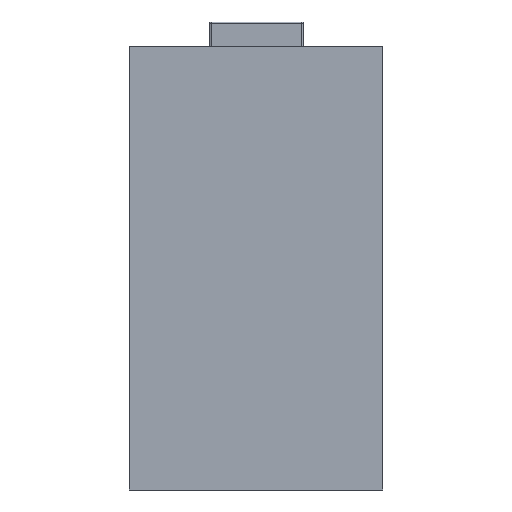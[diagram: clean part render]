
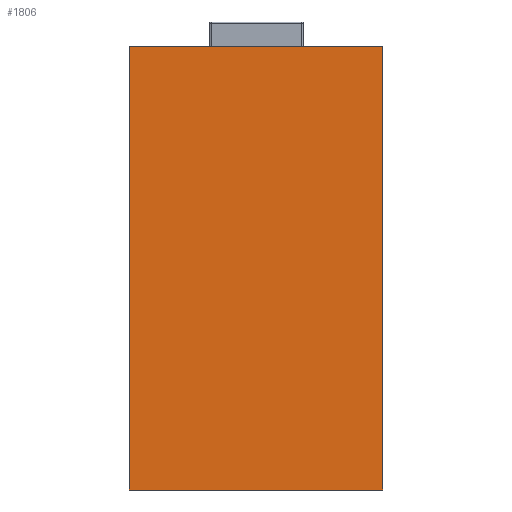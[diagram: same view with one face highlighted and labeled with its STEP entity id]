
A CAD part, front view. The second image highlights one B-rep face of the part: STEP entity #1806.
In plain terms, the highlighted planar face has unit normal (0, -1, 0).
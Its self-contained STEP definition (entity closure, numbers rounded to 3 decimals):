
#178 = CARTESIAN_POINT ( 'NONE',  ( -60., 68., -58.25 ) ) ;
#210 = LINE ( 'NONE', #2301, #4046 ) ;
#517 = ORIENTED_EDGE ( 'NONE', *, *, #2644, .F. ) ;
#682 = ORIENTED_EDGE ( 'NONE', *, *, #2392, .F. ) ;
#711 = VECTOR ( 'NONE', #770, 1000. ) ;
#720 = CARTESIAN_POINT ( 'NONE',  ( 60., 68., 151.75 ) ) ;
#770 = DIRECTION ( 'NONE',  ( 1., 0., 0. ) ) ;
#871 = VERTEX_POINT ( 'NONE', #1727 ) ;
#1039 = EDGE_CURVE ( 'NONE', #1273, #3480, #3290, .T. ) ;
#1063 = CARTESIAN_POINT ( 'NONE',  ( -15.201, 68., 135.837 ) ) ;
#1273 = VERTEX_POINT ( 'NONE', #3998 ) ;
#1315 = ORIENTED_EDGE ( 'NONE', *, *, #1039, .F. ) ;
#1417 = DIRECTION ( 'NONE',  ( 1., 0., 0. ) ) ;
#1609 = LINE ( 'NONE', #178, #1938 ) ;
#1727 = CARTESIAN_POINT ( 'NONE',  ( -60., 68., -58.25 ) ) ;
#1806 = ADVANCED_FACE ( 'NONE', ( #3973 ), #3255, .F. ) ;
#1938 = VECTOR ( 'NONE', #2290, 1000. ) ;
#2278 = VECTOR ( 'NONE', #4438, 1000. ) ;
#2290 = DIRECTION ( 'NONE',  ( -1., 0., 0. ) ) ;
#2301 = CARTESIAN_POINT ( 'NONE',  ( 60., 68., -53.25 ) ) ;
#2302 = CARTESIAN_POINT ( 'NONE',  ( -60., 68., 146.75 ) ) ;
#2392 = EDGE_CURVE ( 'NONE', #3480, #3888, #210, .T. ) ;
#2460 = AXIS2_PLACEMENT_3D ( 'NONE', #1063, #2855, #1417 ) ;
#2644 = EDGE_CURVE ( 'NONE', #3888, #871, #1609, .T. ) ;
#2667 = ORIENTED_EDGE ( 'NONE', *, *, #4250, .F. ) ;
#2855 = DIRECTION ( 'NONE',  ( 0., 1., 0. ) ) ;
#3255 = PLANE ( 'NONE',  #2460 ) ;
#3290 = LINE ( 'NONE', #3686, #711 ) ;
#3480 = VERTEX_POINT ( 'NONE', #720 ) ;
#3523 = CARTESIAN_POINT ( 'NONE',  ( 60., 68., -58.25 ) ) ;
#3686 = CARTESIAN_POINT ( 'NONE',  ( 60., 68., 151.75 ) ) ;
#3747 = EDGE_LOOP ( 'NONE', ( #517, #682, #1315, #2667 ) ) ;
#3764 = LINE ( 'NONE', #2302, #2278 ) ;
#3888 = VERTEX_POINT ( 'NONE', #3523 ) ;
#3973 = FACE_OUTER_BOUND ( 'NONE', #3747, .T. ) ;
#3998 = CARTESIAN_POINT ( 'NONE',  ( -60., 68., 151.75 ) ) ;
#4046 = VECTOR ( 'NONE', #4153, 1000. ) ;
#4153 = DIRECTION ( 'NONE',  ( 0., 0., -1. ) ) ;
#4250 = EDGE_CURVE ( 'NONE', #871, #1273, #3764, .T. ) ;
#4438 = DIRECTION ( 'NONE',  ( 0., 0., 1. ) ) ;
